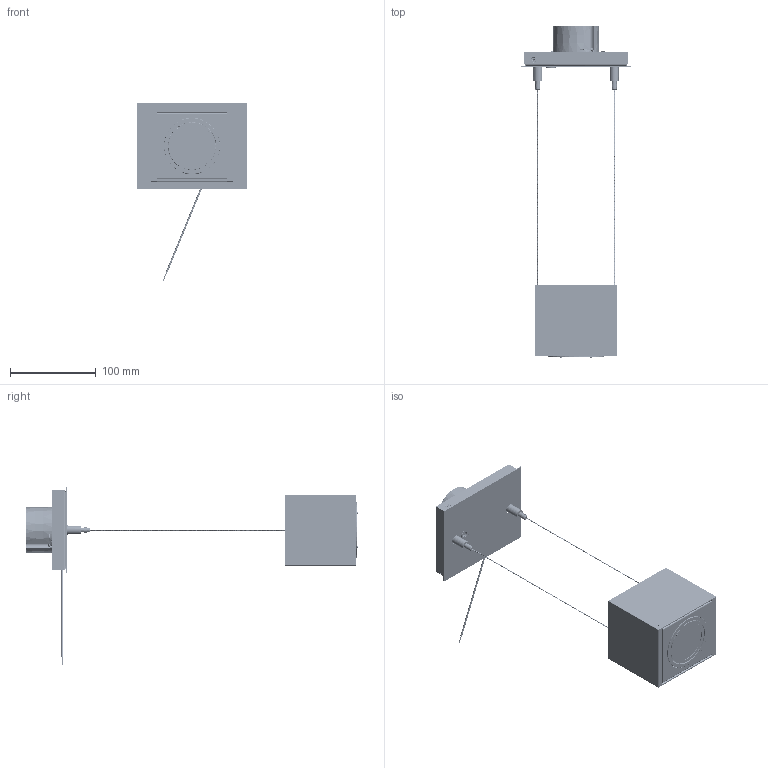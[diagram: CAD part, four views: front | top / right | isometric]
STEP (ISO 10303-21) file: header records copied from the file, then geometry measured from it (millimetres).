
FILE_DESCRIPTION (( 'STEP AP214' ), '1' );
FILE_NAME ('800293.STEP', '2023-12-11T17:23:45', ( '' ), ( '' ), 'SwSTEP 2.0', 'SolidWorks 2020', '' );
FILE_SCHEMA (( 'AUTOMOTIVE_DESIGN' ));
Length unit declared in the file: millimetre
Products named in the file (71): DPK_880065-1; 580307; LEM_880064; 3.STEP; FA-PIN-M3X12_91595A112; IP-M2-5X10FHP_91420A020; 200013; 580502; 530405_12"; 4.STEP; 210-00001; 890812; FA-SCR-8-32X1-2-WELD; CSS-CAB-116-75-SS; FW-M3FWSS_91166A210; IP-M3X9LDFW_91100A120; 430034-IPBSN-10mm X 1.0 X 19_5 THREAD LENGTH; SCR-M3X12PHP_92005A118; 230224_3.25 SUSPENDED CABLE; IP-438-49222; IP-M2-5X3CUPSSSS_92015A094; 821078; 440062; RIVET-3MM-STEEL; 100476; WIRE 6 INCH 18 AWG GREEN; IMPORTED1_1_1_2_1_1_1_1_1_2_1.stp; CSS-MGR-SE-1420-EXT; IP-438-48712; IPBSW1; 471226_FINISHED; 740034_CURVED; 2.STEP; 530407; 580497; IP-M3X6PHP_92005A116; NFCWL036B-V4_3D; 1X1 Cylinder Assembly; 440063; 100475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
Assembly tree (104 placements, depth 6):
  800293
    DPK_880065-1
      821078
        890812
          580497
          PEM-STUD-FH-0420-6ZI_93580A563  x2
        SCR-M3X6FHP_91420A118  x3
        440063  x3
        740034_CURVED
          WIRE 6 INCH 18 AWG GREEN
          RING TERMINAL NON INSULATED
        TLW-M3ETLW_91120A120
        FW-M3FWSS_91166A210
        RIVET-3MM-STEEL
      MDR-R1_RevA1
      IP-M3X6PHP_92005A116  x3
      IP-1-4-CLAMP
      CSS-MGR-SE-1420-EXT  x2
      IP-M3X9LDFW_91100A120
    900389_FINISHED
      471230_FINISHED
      471226_FINISHED
    1X1 Cylinder Assembly
      230224_3.25 SUSPENDED CABLE
      580502  x2
      530405_12"
      430034-IPBSN-10mm X 1.0 X 19_5 THREAD LENGTH
      IPBSW1
      420016_90134A032
      440055  x2
      580307
      530407
      210-00001  x2
      580501  x2
      IP-6-32X3-16FHP_90471A431  x4
      IP-M3X8PHP_92005A118  x4
      FA-PIN-M3X12_91595A112  x8
      FA-SCR-8-32X1-2-WELD  x2
      IP-8-32KEPNUT_90675A009  x2
      LEM_880064
        821077
          100475
          100476
          NW-M3_95610A130
          SCR-M3X12PHP_92005A118
          430049_compressed
          440062
          430041  x2
        100477
        100478
        200013
        IP-M2-5X3CUPSSSS_92015A094
        290106
        IP-M2-5X10FHP_91420A020  x4
        320033
          320033(1-1098-M)_K3 updated drawing 20201203.stp
            IMPORTED1_1_1_2_1_1_1_1_1_2_1.stp
            48.stp
        SCR-M3X5WHP  x2
        IP-438-49222
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Bounding box: 127 x 386.3 x 206.96 mm (x, y, z)
Volume: 325918.6 mm3; surface area: 320598.3 mm2
Topology: 105 solids, 107 shells, 8825 faces, 23099 edges, 14318 vertices
Faces by surface type: cylinder 2821, plane 2063, bspline 1972, cone 925, torus 751, sphere 293
Entity records: 334216 total; most frequent: CARTESIAN_POINT 173902, ORIENTED_EDGE 35126, DIRECTION 27409, EDGE_CURVE 17563, VERTEX_POINT 10872, AXIS2_PLACEMENT_3D 10546, EDGE_LOOP 7167, ADVANCED_FACE 6865
